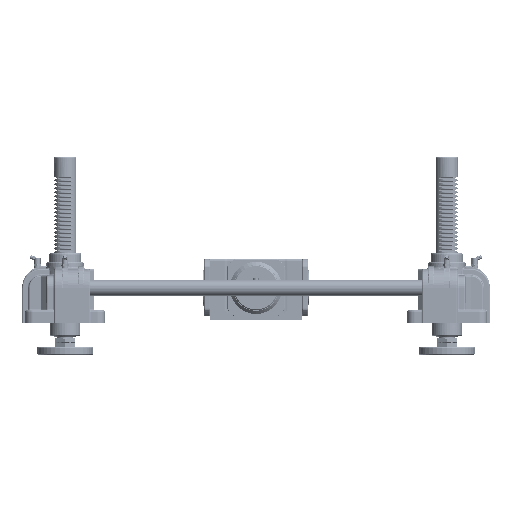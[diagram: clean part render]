
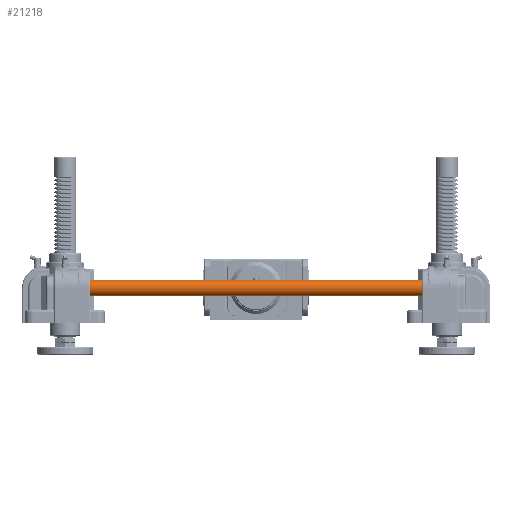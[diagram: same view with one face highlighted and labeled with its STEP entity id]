
A CAD part, left-side view. The second image highlights one B-rep face of the part: STEP entity #21218.
In plain terms, the highlighted cylindrical face has radius 12.5 mm (diameter 25 mm), a full revolution.
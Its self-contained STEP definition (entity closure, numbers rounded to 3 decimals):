
#21218=ADVANCED_FACE('',(#47794,#47795),#47796,.T.);
#47794=FACE_OUTER_BOUND('',#91988,.T.);
#47795=FACE_OUTER_BOUND('',#91989,.T.);
#47796=CYLINDRICAL_SURFACE('',#91990,12.5);
#91988=EDGE_LOOP('',(#207543));
#91989=EDGE_LOOP('',(#207544));
#91990=AXIS2_PLACEMENT_3D('',#207545,#207546,#207547);
#207543=ORIENTED_EDGE('',*,*,#264613,.T.);
#207544=ORIENTED_EDGE('',*,*,#264610,.T.);
#207545=CARTESIAN_POINT('',(0.0,0.0,642.0));
#207546=DIRECTION('',(0.0,0.0,-1.0));
#207547=DIRECTION('',(-1.0,0.0,0.0));
#264610=EDGE_CURVE('',#322960,#322960,#322961,.F.);
#264613=EDGE_CURVE('',#322966,#322966,#322967,.T.);
#322960=VERTEX_POINT('',#435825);
#322961=CIRCLE('',#435826,12.5);
#322966=VERTEX_POINT('',#435831);
#322967=CIRCLE('',#435832,12.5);
#435825=CARTESIAN_POINT('',(12.5,0.0,641.0));
#435826=AXIS2_PLACEMENT_3D('',#502150,#502151,#502152);
#435831=CARTESIAN_POINT('',(12.5,0.0,1.0));
#435832=AXIS2_PLACEMENT_3D('',#502159,#502160,#502161);
#502150=CARTESIAN_POINT('',(0.0,0.0,641.0));
#502151=DIRECTION('',(0.0,0.0,1.0));
#502152=DIRECTION('',(1.0,0.0,0.0));
#502159=CARTESIAN_POINT('',(0.0,0.0,1.0));
#502160=DIRECTION('',(0.0,0.0,1.0));
#502161=DIRECTION('',(1.0,0.0,0.0));
